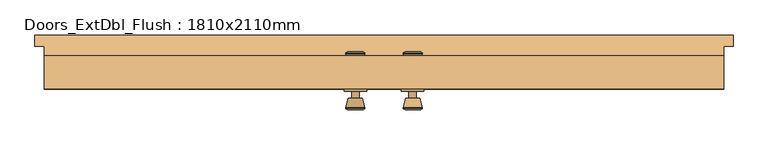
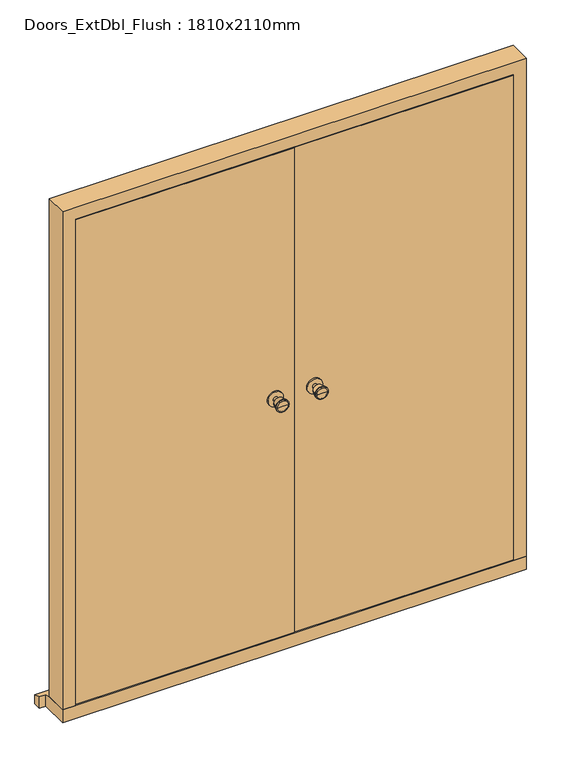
"""IFC4 building model written with IfcOpenShell, lengths in millimetres: door geometry, Doors_ExtDbl_Flush : 1810x2110mm."""

from ifc_helpers import new_model, si_unit, point, frame, frame_2d, origin, place, context, project, spatial, polyline, circle_curve, trimmed, segment, composite_curve, outline, extrude, faceted_brep, source, transform, mapped, element, save
from ifc_brep_helpers import plane_surface, cylinder_surface, revolved_surface, advanced_brep


def doors_extdbl_flush_1810x2110mm_e4a6cb3f(model_context):
    return source(origin(), model_context, "Body", "SolidModel", [
        advanced_brep(
        [(-76.5, 100.0, 1050.0), (-66.5, 100.0, 1050.0), (-86.5, 100.0, 1050.0), (-96.9758676, 51.0, 1050.0), (-56.0241324, 51.0, 1050.0), (-76.5, 51.0, 1050.0), (-101.5, 52.8278681, 1050.0), (-51.5, 52.8278681, 1050.0), (-101.5, 56.2915463, 1050.0), (-51.5, 56.2915463, 1050.0), (-95.136236, 81.0, 1050.0), (-57.863764, 81.0, 1050.0), (-86.5, 81.0, 1050.0), (-66.5, 81.0, 1050.0)],
        [
            (0, 1),
            (1, 2, circle_curve(frame((-76.5, 100.0, 1050.0), z_axis=(0.0, 1.0, 0.0), x_axis=(1.0, 0.0, 0.0)), 10.0)),
            (2, 0),
            (2, 1, circle_curve(frame((-76.5, 100.0, 1050.0), z_axis=(0.0, 1.0, 0.0), x_axis=(1.0, 0.0, 0.0)), 10.0)),
            (3, 4, circle_curve(frame((-76.5, 51.0, 1050.0), z_axis=(0.0, -1.0, 0.0), x_axis=(1.0, 0.0, 0.0)), 20.4758676)),
            (4, 5),
            (5, 3),
            (4, 3, circle_curve(frame((-76.5, 51.0, 1050.0), z_axis=(0.0, -1.0, 0.0), x_axis=(1.0, 0.0, 0.0)), 20.4758676)),
            (6, 7, circle_curve(frame((-76.5, 52.8278681, 1050.0), z_axis=(0.0, -1.0, 0.0), x_axis=(1.0, 0.0, 0.0)), 25.0)),
            (7, 4),
            (3, 6),
            (7, 6, circle_curve(frame((-76.5, 52.8278681, 1050.0), z_axis=(0.0, -1.0, 0.0), x_axis=(1.0, 0.0, 0.0)), 25.0)),
            (8, 9, circle_curve(frame((-76.5, 56.2915463, 1050.0), z_axis=(0.0, -1.0, 0.0), x_axis=(1.0, 0.0, 0.0)), 25.0)),
            (9, 7),
            (6, 8),
            (9, 8, circle_curve(frame((-76.5, 56.2915463, 1050.0), z_axis=(0.0, -1.0, 0.0), x_axis=(1.0, 0.0, 0.0)), 25.0)),
            (10, 11, circle_curve(frame((-76.5, 81.0, 1050.0), z_axis=(0.0, -1.0, 0.0), x_axis=(1.0, 0.0, 0.0)), 18.636236)),
            (11, 9),
            (8, 10),
            (11, 10, circle_curve(frame((-76.5, 81.0, 1050.0), z_axis=(0.0, -1.0, 0.0), x_axis=(1.0, 0.0, 0.0)), 18.636236)),
            (12, 13, circle_curve(frame((-76.5, 81.0, 1050.0), z_axis=(0.0, -1.0, 0.0), x_axis=(1.0, 0.0, 0.0)), 10.0)),
            (13, 11),
            (10, 12),
            (13, 12, circle_curve(frame((-76.5, 81.0, 1050.0), z_axis=(0.0, -1.0, 0.0), x_axis=(1.0, 0.0, 0.0)), 10.0)),
            (1, 13),
            (12, 2),
        ],
        [
            plane_surface(frame((-76.5, 100.0, 1050.0), z_axis=(0.0, 1.0, 0.0), x_axis=(1.0, 0.0, 0.0))),
            plane_surface(frame((-76.5, 51.0, 1050.0), z_axis=(0.0, -1.0, 0.0), x_axis=(1.0, 0.0, 0.0))),
            revolved_surface(polyline([(-56.0241324, 51.0, 1050.0), (-51.5, 52.8278681, 1050.0)]), (-76.5, 100.0, 1050.0), (0.0, 1.0, 0.0)),
            cylinder_surface(frame((-76.5, 100.0, 1050.0), z_axis=(0.0, 1.0, 0.0), x_axis=(1.0, 0.0, 0.0)), 25.0),
            revolved_surface(polyline([(-51.5, 56.2915463, 1050.0), (-57.863764, 81.0, 1050.0)]), (-76.5, 100.0, 1050.0), (0.0, 1.0, 0.0)),
            plane_surface(frame((-76.5, 81.0, 1050.0), z_axis=(0.0, 1.0, 0.0), x_axis=(1.0, 0.0, 0.0))),
            cylinder_surface(frame((-76.5, 100.0, 1050.0), z_axis=(0.0, 1.0, 0.0), x_axis=(1.0, 0.0, 0.0)), 10.0),
        ],
        [
            (0, [[1, 2, 3]]),
            (0, [[-3, 4, -1]]),
            (1, [[5, 6, 7]]),
            (1, [[8, -7, -6]]),
            (2, [[9, 10, -5, 11]]),
            (2, [[12, -11, -8, -10]]),
            (3, [[13, 14, -9, 15]]),
            (3, [[16, -15, -12, -14]]),
            (4, [[17, 18, -13, 19]]),
            (4, [[20, -19, -16, -18]]),
            (5, [[21, 22, -17, 23]]),
            (5, [[24, -23, -20, -22]]),
            (6, [[-2, 25, -21, 26]]),
            (6, [[-4, -26, -24, -25]]),
        ],
    ),
        extrude(outline(composite_curve([segment(trimmed(circle_curve(frame_2d((1050.0, -76.5)), 30.0), [point((1050.0, -46.5))], [point((1050.0, -106.5))], False, "CARTESIAN"), True, "CONTINUOUS"), segment(trimmed(circle_curve(frame_2d((1050.0, -76.5)), 30.0), [point((1050.0, -106.5))], [point((1050.0, -46.5))], False, "CARTESIAN"), True, "CONTINUOUS")], self_intersect=False)), frame((0.0, 100.0, 0.0), z_axis=(0.0, 1.0, 0.0), x_axis=(0.0, 0.0, 1.0)), (0.0, 0.0, 1.0), 6.0),
        advanced_brep(
        [(-76.5, 156.0, 1050.0), (-86.5, 156.0, 1050.0), (-66.5, 156.0, 1050.0), (-96.9758676, 205.0, 1050.0), (-76.5, 205.0, 1050.0), (-56.0241324, 205.0, 1050.0), (-101.5, 203.1721319, 1050.0), (-51.5, 203.1721319, 1050.0), (-101.5, 199.7084537, 1050.0), (-51.5, 199.7084537, 1050.0), (-95.136236, 175.0, 1050.0), (-57.863764, 175.0, 1050.0), (-86.5, 175.0, 1050.0), (-66.5, 175.0, 1050.0)],
        [
            (0, 1),
            (1, 2, circle_curve(frame((-76.5, 156.0, 1050.0), z_axis=(0.0, -1.0, 0.0), x_axis=(1.0, 0.0, 0.0)), 10.0)),
            (2, 0),
            (2, 1, circle_curve(frame((-76.5, 156.0, 1050.0), z_axis=(0.0, -1.0, 0.0), x_axis=(1.0, 0.0, 0.0)), 10.0)),
            (3, 4),
            (4, 5),
            (5, 3, circle_curve(frame((-76.5, 205.0, 1050.0), z_axis=(0.0, 1.0, 0.0), x_axis=(1.0, 0.0, 0.0)), 20.4758676)),
            (3, 5, circle_curve(frame((-76.5, 205.0, 1050.0), z_axis=(0.0, 1.0, 0.0), x_axis=(1.0, 0.0, 0.0)), 20.4758676)),
            (6, 3),
            (5, 7),
            (7, 6, circle_curve(frame((-76.5, 203.1721319, 1050.0), z_axis=(0.0, 1.0, 0.0), x_axis=(1.0, 0.0, 0.0)), 25.0)),
            (6, 7, circle_curve(frame((-76.5, 203.1721319, 1050.0), z_axis=(0.0, 1.0, 0.0), x_axis=(1.0, 0.0, 0.0)), 25.0)),
            (8, 6),
            (7, 9),
            (9, 8, circle_curve(frame((-76.5, 199.7084537, 1050.0), z_axis=(0.0, 1.0, 0.0), x_axis=(1.0, 0.0, 0.0)), 25.0)),
            (8, 9, circle_curve(frame((-76.5, 199.7084537, 1050.0), z_axis=(0.0, 1.0, 0.0), x_axis=(1.0, 0.0, 0.0)), 25.0)),
            (10, 8),
            (9, 11),
            (11, 10, circle_curve(frame((-76.5, 175.0, 1050.0), z_axis=(0.0, 1.0, 0.0), x_axis=(1.0, 0.0, 0.0)), 18.636236)),
            (10, 11, circle_curve(frame((-76.5, 175.0, 1050.0), z_axis=(0.0, 1.0, 0.0), x_axis=(1.0, 0.0, 0.0)), 18.636236)),
            (12, 10),
            (11, 13),
            (13, 12, circle_curve(frame((-76.5, 175.0, 1050.0), z_axis=(0.0, 1.0, 0.0), x_axis=(1.0, 0.0, 0.0)), 10.0)),
            (12, 13, circle_curve(frame((-76.5, 175.0, 1050.0), z_axis=(0.0, 1.0, 0.0), x_axis=(1.0, 0.0, 0.0)), 10.0)),
            (1, 12),
            (13, 2),
        ],
        [
            plane_surface(frame((-76.5, 156.0, 1050.0), z_axis=(0.0, -1.0, 0.0), x_axis=(1.0, 0.0, 0.0))),
            plane_surface(frame((-76.5, 205.0, 1050.0), z_axis=(0.0, 1.0, 0.0), x_axis=(1.0, 0.0, 0.0))),
            revolved_surface(polyline([(-56.0241324, 205.0, 1050.0), (-51.5, 203.1721319, 1050.0)]), (-76.5, 156.0, 1050.0), (0.0, -1.0, 0.0)),
            cylinder_surface(frame((-76.5, 156.0, 1050.0), z_axis=(0.0, -1.0, 0.0), x_axis=(1.0, 0.0, 0.0)), 25.0),
            revolved_surface(polyline([(-51.5, 199.7084537, 1050.0), (-57.863764, 175.0, 1050.0)]), (-76.5, 156.0, 1050.0), (0.0, -1.0, 0.0)),
            plane_surface(frame((-76.5, 175.0, 1050.0), z_axis=(0.0, -1.0, 0.0), x_axis=(1.0, 0.0, 0.0))),
            cylinder_surface(frame((-76.5, 156.0, 1050.0), z_axis=(0.0, -1.0, 0.0), x_axis=(1.0, 0.0, 0.0)), 10.0),
        ],
        [
            (0, [[1, 2, 3]]),
            (0, [[-3, 4, -1]]),
            (1, [[5, 6, 7]]),
            (1, [[-6, -5, 8]]),
            (2, [[9, -7, 10, 11]]),
            (2, [[-10, -8, -9, 12]]),
            (3, [[13, -11, 14, 15]]),
            (3, [[-14, -12, -13, 16]]),
            (4, [[17, -15, 18, 19]]),
            (4, [[-18, -16, -17, 20]]),
            (5, [[21, -19, 22, 23]]),
            (5, [[-22, -20, -21, 24]]),
            (6, [[25, -23, 26, -2]]),
            (6, [[-26, -24, -25, -4]]),
        ],
    ),
        extrude(outline(composite_curve([segment(trimmed(circle_curve(frame_2d((1050.0, -76.5)), 30.0), [point((1050.0, -46.5))], [point((1050.0, -106.5))], False, "CARTESIAN"), True, "CONTINUOUS"), segment(trimmed(circle_curve(frame_2d((1050.0, -76.5)), 30.0), [point((1050.0, -106.5))], [point((1050.0, -46.5))], False, "CARTESIAN"), True, "CONTINUOUS")], self_intersect=False)), frame((0.0, 150.0, 0.0), z_axis=(0.0, 1.0, 0.0), x_axis=(0.0, 0.0, 1.0)), (0.0, 0.0, 1.0), 6.0),
        advanced_brep(
        [(76.5, 100.0, 1050.0), (86.5, 100.0, 1050.0), (66.5, 100.0, 1050.0), (96.9758676, 51.0, 1050.0), (76.5, 51.0, 1050.0), (56.0241324, 51.0, 1050.0), (101.5, 52.8278681, 1050.0), (51.5, 52.8278681, 1050.0), (101.5, 56.2915463, 1050.0), (51.5, 56.2915463, 1050.0), (95.136236, 81.0, 1050.0), (57.863764, 81.0, 1050.0), (86.5, 81.0, 1050.0), (66.5, 81.0, 1050.0)],
        [
            (0, 1),
            (1, 2, circle_curve(frame((76.5, 100.0, 1050.0), z_axis=(0.0, 1.0, 0.0), x_axis=(-1.0, 0.0, 0.0)), 10.0)),
            (2, 0),
            (2, 1, circle_curve(frame((76.5, 100.0, 1050.0), z_axis=(0.0, 1.0, 0.0), x_axis=(-1.0, 0.0, 0.0)), 10.0)),
            (3, 4),
            (4, 5),
            (5, 3, circle_curve(frame((76.5, 51.0, 1050.0), z_axis=(0.0, -1.0, 0.0), x_axis=(-1.0, 0.0, 0.0)), 20.4758676)),
            (3, 5, circle_curve(frame((76.5, 51.0, 1050.0), z_axis=(0.0, -1.0, 0.0), x_axis=(-1.0, 0.0, 0.0)), 20.4758676)),
            (6, 3),
            (5, 7),
            (7, 6, circle_curve(frame((76.5, 52.8278681, 1050.0), z_axis=(0.0, -1.0, 0.0), x_axis=(-1.0, 0.0, 0.0)), 25.0)),
            (6, 7, circle_curve(frame((76.5, 52.8278681, 1050.0), z_axis=(0.0, -1.0, 0.0), x_axis=(-1.0, 0.0, 0.0)), 25.0)),
            (8, 6),
            (7, 9),
            (9, 8, circle_curve(frame((76.5, 56.2915463, 1050.0), z_axis=(0.0, -1.0, 0.0), x_axis=(-1.0, 0.0, 0.0)), 25.0)),
            (8, 9, circle_curve(frame((76.5, 56.2915463, 1050.0), z_axis=(0.0, -1.0, 0.0), x_axis=(-1.0, 0.0, 0.0)), 25.0)),
            (10, 8),
            (9, 11),
            (11, 10, circle_curve(frame((76.5, 81.0, 1050.0), z_axis=(0.0, -1.0, 0.0), x_axis=(-1.0, 0.0, 0.0)), 18.636236)),
            (10, 11, circle_curve(frame((76.5, 81.0, 1050.0), z_axis=(0.0, -1.0, 0.0), x_axis=(-1.0, 0.0, 0.0)), 18.636236)),
            (12, 10),
            (11, 13),
            (13, 12, circle_curve(frame((76.5, 81.0, 1050.0), z_axis=(0.0, -1.0, 0.0), x_axis=(-1.0, 0.0, 0.0)), 10.0)),
            (12, 13, circle_curve(frame((76.5, 81.0, 1050.0), z_axis=(0.0, -1.0, 0.0), x_axis=(-1.0, 0.0, 0.0)), 10.0)),
            (1, 12),
            (13, 2),
        ],
        [
            plane_surface(frame((76.5, 100.0, 1050.0), z_axis=(0.0, 1.0, 0.0), x_axis=(-1.0, 0.0, 0.0))),
            plane_surface(frame((76.5, 51.0, 1050.0), z_axis=(0.0, -1.0, 0.0), x_axis=(-1.0, 0.0, 0.0))),
            revolved_surface(polyline([(56.0241324, 51.0, 1050.0), (51.5, 52.8278681, 1050.0)]), (76.5, 100.0, 1050.0), (0.0, 1.0, 0.0)),
            cylinder_surface(frame((76.5, 100.0, 1050.0), z_axis=(0.0, 1.0, 0.0), x_axis=(-1.0, 0.0, 0.0)), 25.0),
            revolved_surface(polyline([(51.5, 56.2915463, 1050.0), (57.863764, 81.0, 1050.0)]), (76.5, 100.0, 1050.0), (0.0, 1.0, 0.0)),
            plane_surface(frame((76.5, 81.0, 1050.0), z_axis=(0.0, 1.0, 0.0), x_axis=(-1.0, 0.0, 0.0))),
            cylinder_surface(frame((76.5, 100.0, 1050.0), z_axis=(0.0, 1.0, 0.0), x_axis=(-1.0, 0.0, 0.0)), 10.0),
        ],
        [
            (0, [[1, 2, 3]]),
            (0, [[-3, 4, -1]]),
            (1, [[5, 6, 7]]),
            (1, [[-6, -5, 8]]),
            (2, [[9, -7, 10, 11]]),
            (2, [[-10, -8, -9, 12]]),
            (3, [[13, -11, 14, 15]]),
            (3, [[-14, -12, -13, 16]]),
            (4, [[17, -15, 18, 19]]),
            (4, [[-18, -16, -17, 20]]),
            (5, [[21, -19, 22, 23]]),
            (5, [[-22, -20, -21, 24]]),
            (6, [[25, -23, 26, -2]]),
            (6, [[-26, -24, -25, -4]]),
        ],
    ),
        extrude(outline(composite_curve([segment(trimmed(circle_curve(frame_2d((1050.0, 76.5)), 30.0), [point((1050.0, 46.5))], [point((1050.0, 106.5))], False, "CARTESIAN"), True, "CONTINUOUS"), segment(trimmed(circle_curve(frame_2d((1050.0, 76.5)), 30.0), [point((1050.0, 106.5))], [point((1050.0, 46.5))], False, "CARTESIAN"), True, "CONTINUOUS")], self_intersect=False)), frame((0.0, 100.0, 0.0), z_axis=(0.0, 1.0, 0.0), x_axis=(0.0, 0.0, 1.0)), (0.0, 0.0, 1.0), 6.0),
        advanced_brep(
        [(76.5, 156.0, 1050.0), (66.5, 156.0, 1050.0), (86.5, 156.0, 1050.0), (96.9758676, 205.0, 1050.0), (56.0241324, 205.0, 1050.0), (76.5, 205.0, 1050.0), (101.5, 203.1721319, 1050.0), (51.5, 203.1721319, 1050.0), (101.5, 199.7084537, 1050.0), (51.5, 199.7084537, 1050.0), (95.136236, 175.0, 1050.0), (57.863764, 175.0, 1050.0), (86.5, 175.0, 1050.0), (66.5, 175.0, 1050.0)],
        [
            (0, 1),
            (1, 2, circle_curve(frame((76.5, 156.0, 1050.0), z_axis=(0.0, -1.0, 0.0), x_axis=(-1.0, 0.0, 0.0)), 10.0)),
            (2, 0),
            (2, 1, circle_curve(frame((76.5, 156.0, 1050.0), z_axis=(0.0, -1.0, 0.0), x_axis=(-1.0, 0.0, 0.0)), 10.0)),
            (3, 4, circle_curve(frame((76.5, 205.0, 1050.0), z_axis=(0.0, 1.0, 0.0), x_axis=(-1.0, 0.0, 0.0)), 20.4758676)),
            (4, 5),
            (5, 3),
            (4, 3, circle_curve(frame((76.5, 205.0, 1050.0), z_axis=(0.0, 1.0, 0.0), x_axis=(-1.0, 0.0, 0.0)), 20.4758676)),
            (6, 7, circle_curve(frame((76.5, 203.1721319, 1050.0), z_axis=(0.0, 1.0, 0.0), x_axis=(-1.0, 0.0, 0.0)), 25.0)),
            (7, 4),
            (3, 6),
            (7, 6, circle_curve(frame((76.5, 203.1721319, 1050.0), z_axis=(0.0, 1.0, 0.0), x_axis=(-1.0, 0.0, 0.0)), 25.0)),
            (8, 9, circle_curve(frame((76.5, 199.7084537, 1050.0), z_axis=(0.0, 1.0, 0.0), x_axis=(-1.0, 0.0, 0.0)), 25.0)),
            (9, 7),
            (6, 8),
            (9, 8, circle_curve(frame((76.5, 199.7084537, 1050.0), z_axis=(0.0, 1.0, 0.0), x_axis=(-1.0, 0.0, 0.0)), 25.0)),
            (10, 11, circle_curve(frame((76.5, 175.0, 1050.0), z_axis=(0.0, 1.0, 0.0), x_axis=(-1.0, 0.0, 0.0)), 18.636236)),
            (11, 9),
            (8, 10),
            (11, 10, circle_curve(frame((76.5, 175.0, 1050.0), z_axis=(0.0, 1.0, 0.0), x_axis=(-1.0, 0.0, 0.0)), 18.636236)),
            (12, 13, circle_curve(frame((76.5, 175.0, 1050.0), z_axis=(0.0, 1.0, 0.0), x_axis=(-1.0, 0.0, 0.0)), 10.0)),
            (13, 11),
            (10, 12),
            (13, 12, circle_curve(frame((76.5, 175.0, 1050.0), z_axis=(0.0, 1.0, 0.0), x_axis=(-1.0, 0.0, 0.0)), 10.0)),
            (1, 13),
            (12, 2),
        ],
        [
            plane_surface(frame((76.5, 156.0, 1050.0), z_axis=(0.0, -1.0, 0.0), x_axis=(-1.0, 0.0, 0.0))),
            plane_surface(frame((76.5, 205.0, 1050.0), z_axis=(0.0, 1.0, 0.0), x_axis=(-1.0, 0.0, 0.0))),
            revolved_surface(polyline([(56.0241324, 205.0, 1050.0), (51.5, 203.1721319, 1050.0)]), (76.5, 156.0, 1050.0), (0.0, -1.0, 0.0)),
            cylinder_surface(frame((76.5, 156.0, 1050.0), z_axis=(0.0, -1.0, 0.0), x_axis=(-1.0, 0.0, 0.0)), 25.0),
            revolved_surface(polyline([(51.5, 199.7084537, 1050.0), (57.863764, 175.0, 1050.0)]), (76.5, 156.0, 1050.0), (0.0, -1.0, 0.0)),
            plane_surface(frame((76.5, 175.0, 1050.0), z_axis=(0.0, -1.0, 0.0), x_axis=(-1.0, 0.0, 0.0))),
            cylinder_surface(frame((76.5, 156.0, 1050.0), z_axis=(0.0, -1.0, 0.0), x_axis=(-1.0, 0.0, 0.0)), 10.0),
        ],
        [
            (0, [[1, 2, 3]]),
            (0, [[-3, 4, -1]]),
            (1, [[5, 6, 7]]),
            (1, [[8, -7, -6]]),
            (2, [[9, 10, -5, 11]]),
            (2, [[12, -11, -8, -10]]),
            (3, [[13, 14, -9, 15]]),
            (3, [[16, -15, -12, -14]]),
            (4, [[17, 18, -13, 19]]),
            (4, [[20, -19, -16, -18]]),
            (5, [[21, 22, -17, 23]]),
            (5, [[24, -23, -20, -22]]),
            (6, [[-2, 25, -21, 26]]),
            (6, [[-4, -26, -24, -25]]),
        ],
    ),
        extrude(outline(composite_curve([segment(trimmed(circle_curve(frame_2d((1050.0, 76.5)), 30.0), [point((1050.0, 46.5))], [point((1050.0, 106.5))], False, "CARTESIAN"), True, "CONTINUOUS"), segment(trimmed(circle_curve(frame_2d((1050.0, 76.5)), 30.0), [point((1050.0, 106.5))], [point((1050.0, 46.5))], False, "CARTESIAN"), True, "CONTINUOUS")], self_intersect=False)), frame((0.0, 150.0, 0.0), z_axis=(0.0, 1.0, 0.0), x_axis=(0.0, 0.0, 1.0)), (0.0, 0.0, 1.0), 6.0),
        faceted_brep([(834.5, 195.0, 54.5), (905.0, 195.0, 54.5), (905.0, 106.0, 54.5), (856.5, 106.0, 54.5), (856.5, 153.0, 54.5), (834.5, 153.0, 54.5), (834.5, 195.0, 2039.5), (-834.5, 195.0, 2039.5), (-834.5, 195.0, 54.5), (-905.0, 195.0, 54.5), (-905.0, 195.0, 2110.0), (905.0, 195.0, 2110.0), (905.0, 106.0, 2110.0), (-905.0, 106.0, 2110.0), (-905.0, 106.0, 54.5), (-856.5, 106.0, 54.5), (-856.5, 106.0, 2061.5), (856.5, 106.0, 2061.5), (856.5, 153.0, 2061.5), (-856.5, 153.0, 2061.5), (-856.5, 153.0, 54.5), (-834.5, 153.0, 54.5), (-834.5, 153.0, 2039.5), (834.5, 153.0, 2039.5)], [[[0, 1, 2, 3, 4, 5]], [[1, 0, 6, 7, 8, 9, 10, 11]], [[2, 1, 11, 12]], [[3, 2, 12, 13, 14, 15, 16, 17]], [[4, 3, 17, 18]], [[5, 4, 18, 19, 20, 21, 22, 23]], [[0, 5, 23, 6]], [[12, 11, 10, 13]], [[18, 17, 16, 19]], [[6, 23, 22, 7]], [[8, 21, 20, 15, 14, 9]], [[13, 10, 9, 14]], [[19, 16, 15, 20]], [[7, 22, 21, 8]]]),
        faceted_brep([(930.0, 250.0, 0.0), (930.0, 250.0, 38.5947221), (930.0, 220.0, 47.2703282), (930.0, 220.0, 0.0), (-930.0, 250.0, 38.5947221), (-930.0, 250.0, 0.0), (-930.0, 220.0, 0.0), (-930.0, 220.0, 47.2703282), (905.0, 220.0, 0.0), (905.0, 106.0, 0.0), (-905.0, 106.0, 0.0), (-905.0, 220.0, 0.0), (-905.0, 220.0, 47.2703282), (-905.0, 195.0, 54.5), (905.0, 195.0, 54.5), (905.0, 220.0, 47.2703282), (-905.0, 106.0, 54.5), (905.0, 106.0, 54.5)], [[[0, 1, 2, 3]], [[4, 5, 6, 7]], [[5, 0, 3, 8, 9, 10, 11, 6]], [[1, 0, 5, 4]], [[1, 4, 7, 12, 13, 14, 15, 2]], [[13, 16, 17, 14]], [[16, 10, 9, 17]], [[12, 11, 10, 16, 13]], [[11, 12, 7, 6]], [[8, 15, 14, 17, 9]], [[15, 8, 3, 2]]]),
        extrude(outline(polyline([(853.5, 106.0), (1.5, 106.0), (1.5, 150.0), (853.5, 150.0), (853.5, 106.0)])), frame((0.0, 0.0, 58.5), z_axis=(0.0, 0.0, 1.0), x_axis=(1.0, 0.0, 0.0)), (0.0, 0.0, 1.0), 2000.0),
        extrude(outline(polyline([(-1.5, 106.0), (-853.5, 106.0), (-853.5, 150.0), (-1.5, 150.0), (-1.5, 106.0)])), frame((0.0, 0.0, 58.5), z_axis=(0.0, 0.0, 1.0), x_axis=(1.0, 0.0, 0.0)), (0.0, 0.0, 1.0), 2000.0),
    ])


if __name__ == "__main__":
    model = new_model("IFC4")
    model_context = context("Model", 3, world=origin())
    ifc_project = project(units=[si_unit("LENGTHUNIT", "METRE", prefix="MILLI")], contexts=[model_context])
    site = spatial("IfcSite", under=ifc_project)
    building = spatial("IfcBuilding", under=site)
    placement = place(None, origin())
    doors_extdbl_flush_1810x2110mm_shape = doors_extdbl_flush_1810x2110mm_e4a6cb3f(model_context)
    element("IfcDoor", 1, ObjectType="Doors_ExtDbl_Flush : 1810x2110mm", at=placement, inside=building, context=model_context, shape_type="MappedRepresentation", body=[
        mapped(doors_extdbl_flush_1810x2110mm_shape, transform((0.0, 0.0, 0.0), x_axis=(1.0, 0.0, 0.0), y_axis=(0.0, 1.0, 0.0), z_axis=(0.0, 0.0, 1.0))),
    ])
    save(model, "model.ifc")
